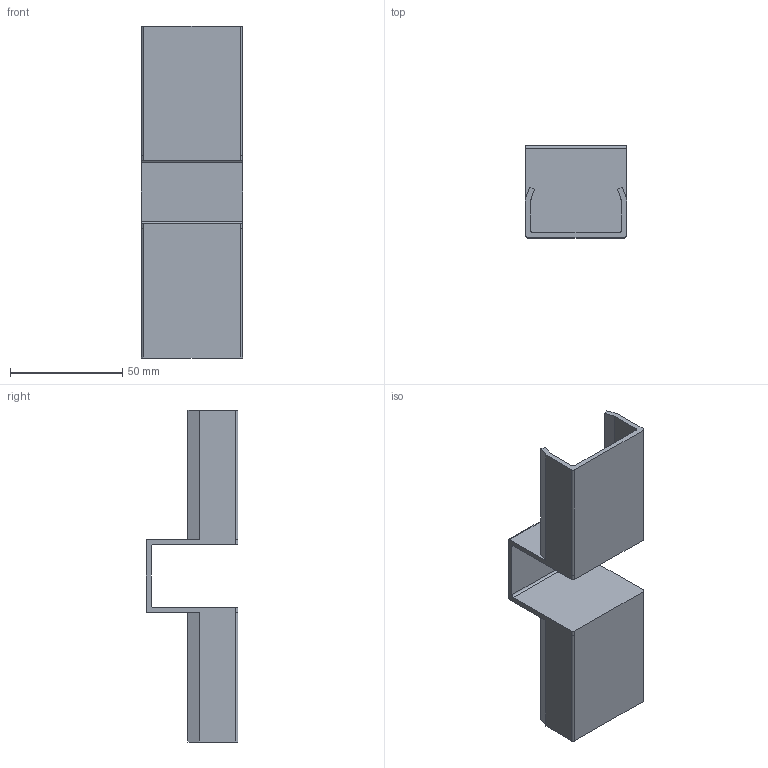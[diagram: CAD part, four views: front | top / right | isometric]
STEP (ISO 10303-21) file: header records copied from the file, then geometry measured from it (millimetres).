
FILE_DESCRIPTION (( 'STEP AP203' ), '1' );
FILE_NAME ('015.200.005.STEP', '2016-10-24T08:40:29', ( '' ), ( '' ), 'SwSTEP 2.0', 'SolidWorks 2016', '' );
FILE_SCHEMA (( 'CONFIG_CONTROL_DESIGN' ));
Length unit declared in the file: millimetre
Products named in the file (1): 015.200.005
Bounding box: 45.1 x 41 x 148.2 mm (x, y, z)
Volume: 33972.9 mm3; surface area: 30507.3 mm2
Topology: 1 solids, 1 shells, 46 faces, 132 edges, 88 vertices
Faces by surface type: plane 30, cylinder 16
Entity records: 1581 total; most frequent: CARTESIAN_POINT 267, ORIENTED_EDGE 264, DIRECTION 254, EDGE_CURVE 132, LINE 104, VECTOR 104, VERTEX_POINT 88, AXIS2_PLACEMENT_3D 75
